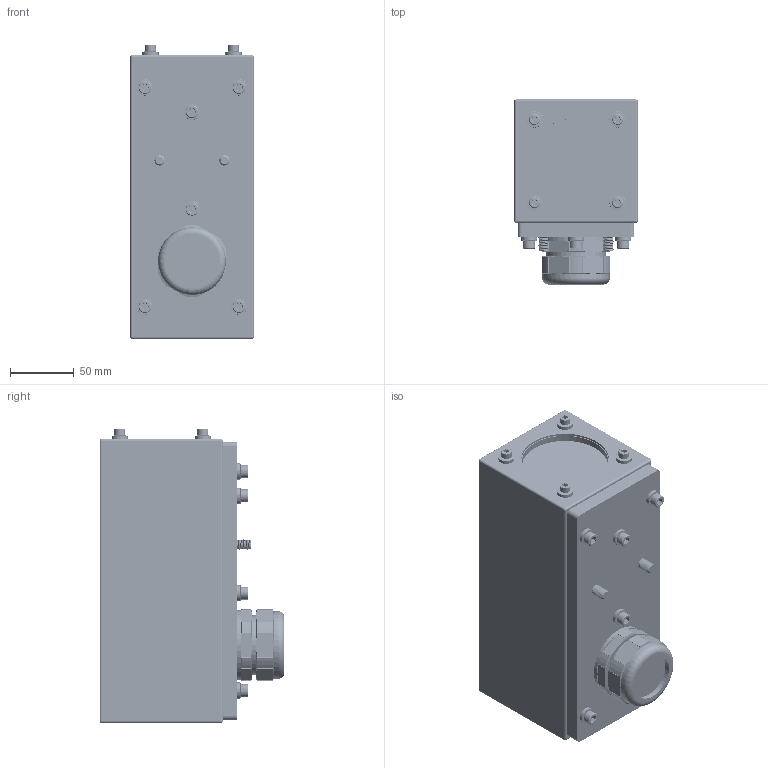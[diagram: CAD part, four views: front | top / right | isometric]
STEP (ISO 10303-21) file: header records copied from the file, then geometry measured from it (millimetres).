
FILE_DESCRIPTION (( 'STEP AP203' ), '1' );
FILE_NAME ('38D-DW.STEP', '2022-03-10T14:07:45', ( '' ), ( '' ), 'SwSTEP 2.0', 'SolidWorks 2021', '' );
FILE_SCHEMA (( 'CONFIG_CONTROL_DESIGN' ));
Length unit declared in the file: inch
Products named in the file (26): Victorem 2KSDI-Mini; 91292A128; 93625A200; 200309; 201093; PG36-I01; 38D-DW; 400133; 9452K15; SP-M6-1; PG36-B01; 200654; 201244; PG36-S01; PG36-N03; 91292A137; MVL8M1; 94709A214; 93635A318; PG36-01-01-01-03_0.25 GAP; 94709A212; 500100; 91292A113; 400235; 201094; 94709A417
Assembly tree (55 placements, depth 3):
  38D-DW
    201093
      201094
      SP-M6-1  x4
    200309
    200654
    201244
    400133
    400235
    500100
    PG36-01-01-01-03_0.25 GAP
      PG36-B01
      PG36-I01
      PG36-S01
      PG36-N03
    93625A200  x4
    91292A137  x6
    94709A214  x6
    94709A212  x4
    91292A128  x4
    9452K15  x4
    93635A318  x2
    94709A417  x2
    91292A113  x4
    Victorem 2KSDI-Mini
    MVL8M1
Bounding box: 96.52 x 144.63 x 230.1 mm (x, y, z)
Volume: 553773.8 mm3; surface area: 391613.6 mm2
Topology: 105 solids, 105 shells, 6879 faces, 19087 edges, 12542 vertices
Faces by surface type: cylinder 3612, plane 1996, cone 726, bspline 254, sphere 146, torus 145
Full cylindrical faces by diameter (mm): 2.529 x24, 3.086 x20
Entity records: 458264 total; most frequent: CARTESIAN_POINT 334732, ORIENTED_EDGE 27796, DIRECTION 22001, EDGE_CURVE 13898, VERTEX_POINT 9238, AXIS2_PLACEMENT_3D 7919, VECTOR 6163, LINE 6163
